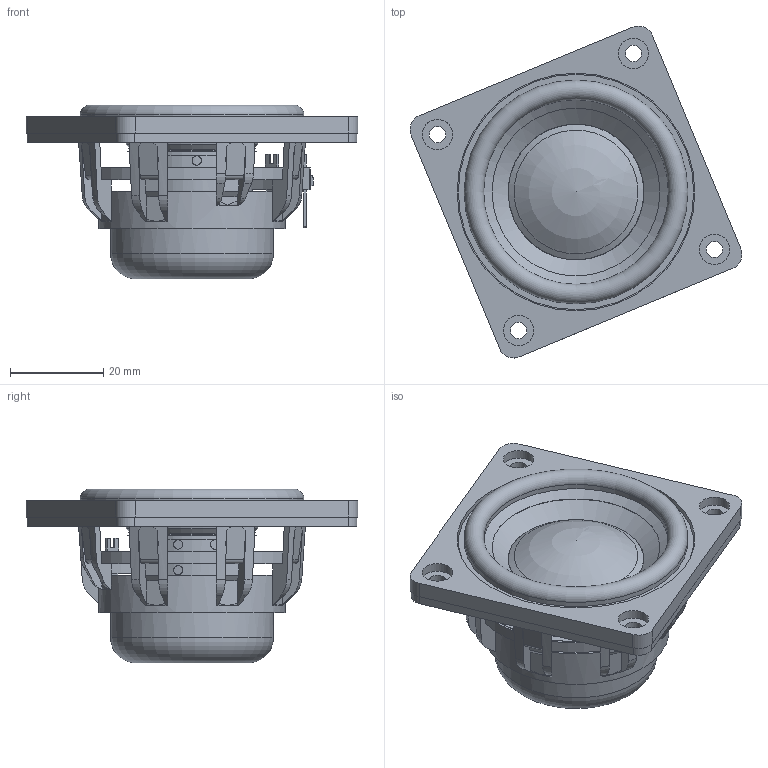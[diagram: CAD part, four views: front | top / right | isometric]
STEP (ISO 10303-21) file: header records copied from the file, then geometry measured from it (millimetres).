
FILE_DESCRIPTION(/* description */ (''),/* implementation_level */ '2;1');
FILE_NAME(/* name */ 'DMA58-4 and -8.step',/* time_stamp */ '2026-07-22T18:03:49-04:00',/* author */ (''),/* organization */ (''),/* preprocessor_version */ 'ST-DEVELOPER v20.1',/* originating_system */ 'Autodesk Translation Framework v15.8.0.0',/* authorisation */ '');
FILE_SCHEMA (('AUTOMOTIVE_DESIGN { 1 0 10303 214 3 1 1 }'));
Length unit declared in the file: millimetre
Products named in the file (3): 056056_ASM; EVA; YQ
Assembly tree (2 placements, depth 2):
  056056_ASM
    EVA
    YQ
Bounding box: 71.21 x 71.21 x 37.3 mm (x, y, z)
Volume: 32508.8 mm3; surface area: 30860.4 mm2
Topology: 3 solids, 3 shells, 388 faces, 1153 edges, 756 vertices
Faces by surface type: plane 201, cylinder 92, cone 42, torus 31, bspline 20, sphere 2
Full cylindrical faces by diameter (mm): 1.4 x2, 2 x15, 3.5 x4, 4 x4, 6.5 x4, 25.4 x1, 25.5 x1, 25.65 x1, 25.95 x1, 26.56 x1, 26.68 x1, 30 x1, 35 x2, 39.597 x1, 40 x1, 40.199 x1, 44 x1, 45 x1, 47 x1, 47.398 x1, 48 x1, 50 x2, 50.5 x1, 51 x1
Entity records: 16796 total; most frequent: CARTESIAN_POINT 6232, ORIENTED_EDGE 2318, DIRECTION 2104, EDGE_CURVE 1159, AXIS2_PLACEMENT_3D 770, VERTEX_POINT 756, LINE 564, VECTOR 564
